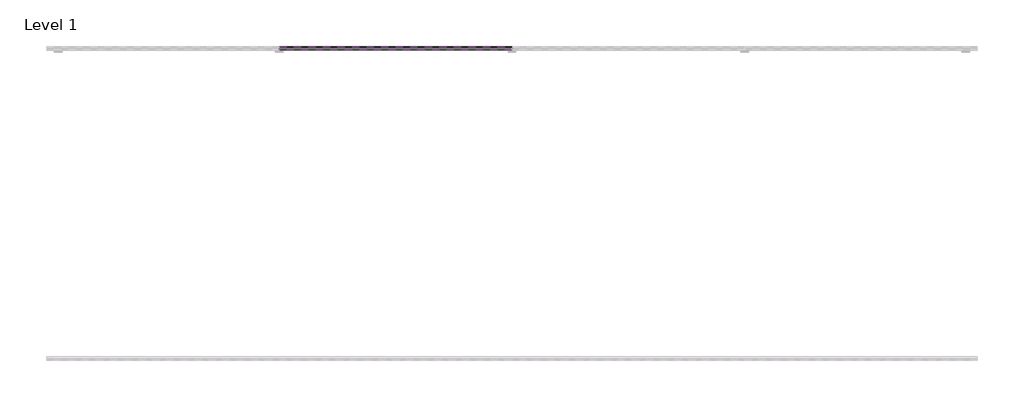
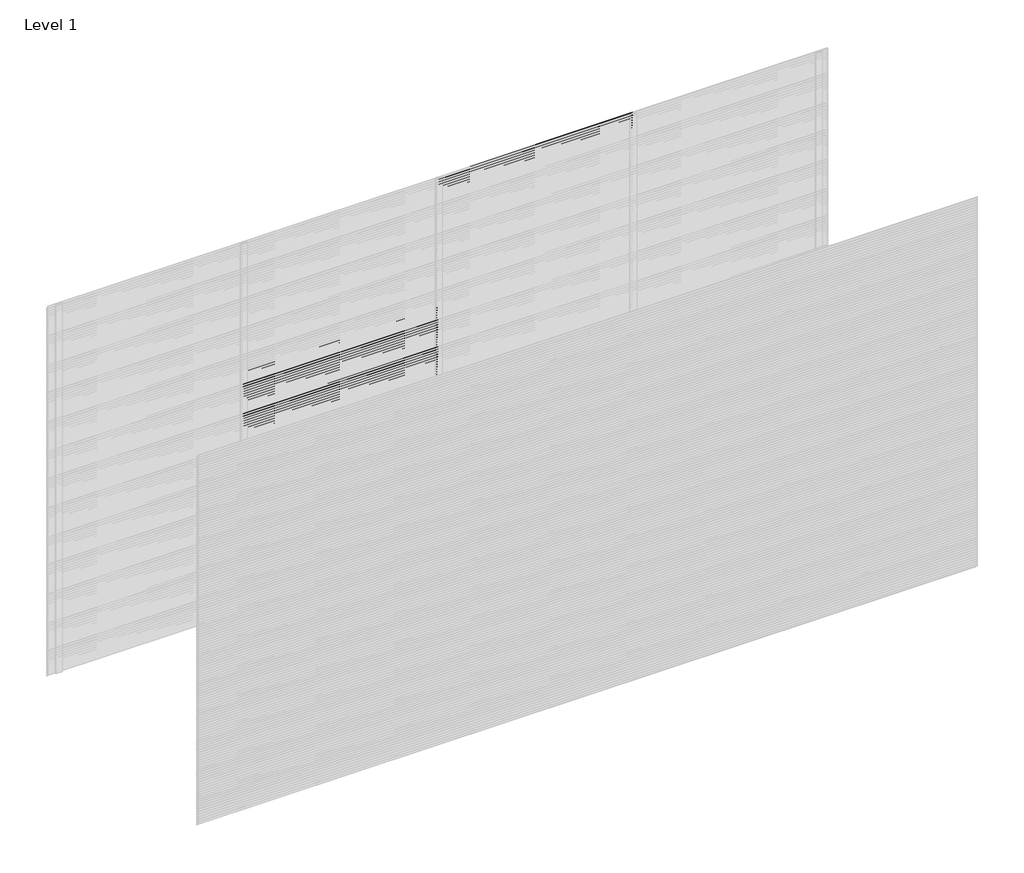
# One storey, part 28 of 31: 104 proxies.
"""IFC4 building model written with IfcOpenShell, lengths in millimetres."""

from ifc_helpers import new_model, si_unit, frame, origin, place, context, project, spatial, polyline, outline, extrude, element, save

model = new_model("IFC4")

# Units and contexts
model_context = context("Model", 3, world=origin())
ifc_project = project(units=[si_unit("LENGTHUNIT", "METRE", prefix="MILLI")], contexts=[model_context])

# Site, building, storey
site = spatial("IfcSite", under=ifc_project)
building = spatial("IfcBuilding", under=site)
storey = spatial("IfcBuildingStorey", under=building, Name="Level 1", Elevation=0.0)

# Proxies
placement = place(None, origin())
element("IfcBuildingElementProxy", 1, Name="Wall Sweeps", at=placement, inside=storey, context=model_context, shape_type="SweptSolid", body=[
    extrude(outline(polyline([(5.0, 1960.0), (5.0, 1948.942893), (24.0, 1933.0), (24.0, 1920.0), (3.0, 1937.6210923), (3.0, 1960.0), (5.0, 1960.0)])), frame((1500.0, 0.0, 0.0), z_axis=(1.0, 0.0, 0.0), x_axis=(0.0, 1.0, 0.0)), (0.0, 0.0, 1.0), 1500.0),
])
element("IfcBuildingElementProxy", 2, Name="Wall Sweeps", at=placement, inside=storey, context=model_context, shape_type="SweptSolid", body=[
    extrude(outline(polyline([(5.0, 1940.0), (5.0, 1928.942893), (24.0, 1913.0), (24.0, 1900.0), (3.0, 1917.6210923), (3.0, 1940.0), (5.0, 1940.0)])), frame((1500.0, 0.0, 0.0), z_axis=(1.0, 0.0, 0.0), x_axis=(0.0, 1.0, 0.0)), (0.0, 0.0, 1.0), 1500.0),
])
element("IfcBuildingElementProxy", 3, Name="Wall Sweeps", at=placement, inside=storey, context=model_context, shape_type="SweptSolid", body=[
    extrude(outline(polyline([(5.0, 1920.0), (5.0, 1908.942893), (24.0, 1893.0), (24.0, 1880.0), (3.0, 1897.6210923), (3.0, 1920.0), (5.0, 1920.0)])), frame((1500.0, 0.0, 0.0), z_axis=(1.0, 0.0, 0.0), x_axis=(0.0, 1.0, 0.0)), (0.0, 0.0, 1.0), 1500.0),
])
element("IfcBuildingElementProxy", 4, Name="Wall Sweeps", at=placement, inside=storey, context=model_context, shape_type="SweptSolid", body=[
    extrude(outline(polyline([(5.0, 1900.0), (5.0, 1888.942893), (24.0, 1873.0), (24.0, 1860.0), (3.0, 1877.6210923), (3.0, 1900.0), (5.0, 1900.0)])), frame((1500.0, 0.0, 0.0), z_axis=(1.0, 0.0, 0.0), x_axis=(0.0, 1.0, 0.0)), (0.0, 0.0, 1.0), 1500.0),
])
element("IfcBuildingElementProxy", 5, Name="Wall Sweeps", at=placement, inside=storey, context=model_context, shape_type="SweptSolid", body=[
    extrude(outline(polyline([(5.0, 1880.0), (5.0, 1868.942893), (24.0, 1853.0), (24.0, 1840.0), (3.0, 1857.6210923), (3.0, 1880.0), (5.0, 1880.0)])), frame((1500.0, 0.0, 0.0), z_axis=(1.0, 0.0, 0.0), x_axis=(0.0, 1.0, 0.0)), (0.0, 0.0, 1.0), 1500.0),
])
element("IfcBuildingElementProxy", 6, Name="Wall Sweeps", at=placement, inside=storey, context=model_context, shape_type="SweptSolid", body=[
    extrude(outline(polyline([(5.0, 1860.0), (5.0, 1848.942893), (24.0, 1833.0), (24.0, 1820.0), (3.0, 1837.6210923), (3.0, 1860.0), (5.0, 1860.0)])), frame((1500.0, 0.0, 0.0), z_axis=(1.0, 0.0, 0.0), x_axis=(0.0, 1.0, 0.0)), (0.0, 0.0, 1.0), 1500.0),
])
element("IfcBuildingElementProxy", 7, Name="Wall Sweeps", at=placement, inside=storey, context=model_context, shape_type="SweptSolid", body=[
    extrude(outline(polyline([(5.0, 1840.0), (5.0, 1828.942893), (24.0, 1813.0), (24.0, 1800.0), (3.0, 1817.6210923), (3.0, 1840.0), (5.0, 1840.0)])), frame((1500.0, 0.0, 0.0), z_axis=(1.0, 0.0, 0.0), x_axis=(0.0, 1.0, 0.0)), (0.0, 0.0, 1.0), 1500.0),
])
element("IfcBuildingElementProxy", 8, Name="Wall Sweeps", at=placement, inside=storey, context=model_context, shape_type="SweptSolid", body=[
    extrude(outline(polyline([(5.0, 1820.0), (5.0, 1808.942893), (24.0, 1793.0), (24.0, 1780.0), (3.0, 1797.6210923), (3.0, 1820.0), (5.0, 1820.0)])), frame((1500.0, 0.0, 0.0), z_axis=(1.0, 0.0, 0.0), x_axis=(0.0, 1.0, 0.0)), (0.0, 0.0, 1.0), 1500.0),
])
element("IfcBuildingElementProxy", 9, Name="Wall Sweeps", at=placement, inside=storey, context=model_context, shape_type="SweptSolid", body=[
    extrude(outline(polyline([(5.0, 1800.0), (5.0, 1788.942893), (24.0, 1773.0), (24.0, 1760.0), (3.0, 1777.6210923), (3.0, 1800.0), (5.0, 1800.0)])), frame((1500.0, 0.0, 0.0), z_axis=(1.0, 0.0, 0.0), x_axis=(0.0, 1.0, 0.0)), (0.0, 0.0, 1.0), 1500.0),
])
element("IfcBuildingElementProxy", 10, Name="Wall Sweeps", at=placement, inside=storey, context=model_context, shape_type="SweptSolid", body=[
    extrude(outline(polyline([(5.0, 1780.0), (5.0, 1768.942893), (24.0, 1753.0), (24.0, 1740.0), (3.0, 1757.6210923), (3.0, 1780.0), (5.0, 1780.0)])), frame((1500.0, 0.0, 0.0), z_axis=(1.0, 0.0, 0.0), x_axis=(0.0, 1.0, 0.0)), (0.0, 0.0, 1.0), 1500.0),
])
element("IfcBuildingElementProxy", 11, Name="Wall Sweeps", at=placement, inside=storey, context=model_context, shape_type="SweptSolid", body=[
    extrude(outline(polyline([(5.0, 1760.0), (5.0, 1748.942893), (24.0, 1733.0), (24.0, 1720.0), (3.0, 1737.6210923), (3.0, 1760.0), (5.0, 1760.0)])), frame((1500.0, 0.0, 0.0), z_axis=(1.0, 0.0, 0.0), x_axis=(0.0, 1.0, 0.0)), (0.0, 0.0, 1.0), 1500.0),
])
element("IfcBuildingElementProxy", 12, Name="Wall Sweeps", at=placement, inside=storey, context=model_context, shape_type="SweptSolid", body=[
    extrude(outline(polyline([(5.0, 1740.0), (5.0, 1728.942893), (24.0, 1713.0), (24.0, 1700.0), (3.0, 1717.6210923), (3.0, 1740.0), (5.0, 1740.0)])), frame((1500.0, 0.0, 0.0), z_axis=(1.0, 0.0, 0.0), x_axis=(0.0, 1.0, 0.0)), (0.0, 0.0, 1.0), 1500.0),
])
element("IfcBuildingElementProxy", 13, Name="Wall Sweeps", at=placement, inside=storey, context=model_context, shape_type="SweptSolid", body=[
    extrude(outline(polyline([(5.0, 1720.0), (5.0, 1708.942893), (24.0, 1693.0), (24.0, 1680.0), (3.0, 1697.6210923), (3.0, 1720.0), (5.0, 1720.0)])), frame((1500.0, 0.0, 0.0), z_axis=(1.0, 0.0, 0.0), x_axis=(0.0, 1.0, 0.0)), (0.0, 0.0, 1.0), 1500.0),
])
element("IfcBuildingElementProxy", 14, Name="Wall Sweeps", at=placement, inside=storey, context=model_context, shape_type="SweptSolid", body=[
    extrude(outline(polyline([(5.0, 1700.0), (5.0, 1688.942893), (24.0, 1673.0), (24.0, 1660.0), (3.0, 1677.6210923), (3.0, 1700.0), (5.0, 1700.0)])), frame((1500.0, 0.0, 0.0), z_axis=(1.0, 0.0, 0.0), x_axis=(0.0, 1.0, 0.0)), (0.0, 0.0, 1.0), 1500.0),
])
element("IfcBuildingElementProxy", 15, Name="Wall Sweeps", at=placement, inside=storey, context=model_context, shape_type="SweptSolid", body=[
    extrude(outline(polyline([(5.0, 1680.0), (5.0, 1668.942893), (24.0, 1653.0), (24.0, 1640.0), (3.0, 1657.6210923), (3.0, 1680.0), (5.0, 1680.0)])), frame((1500.0, 0.0, 0.0), z_axis=(1.0, 0.0, 0.0), x_axis=(0.0, 1.0, 0.0)), (0.0, 0.0, 1.0), 1500.0),
])
element("IfcBuildingElementProxy", 16, Name="Wall Sweeps", at=placement, inside=storey, context=model_context, shape_type="SweptSolid", body=[
    extrude(outline(polyline([(5.0, 1660.0), (5.0, 1648.942893), (24.0, 1633.0), (24.0, 1620.0), (3.0, 1637.6210923), (3.0, 1660.0), (5.0, 1660.0)])), frame((1500.0, 0.0, 0.0), z_axis=(1.0, 0.0, 0.0), x_axis=(0.0, 1.0, 0.0)), (0.0, 0.0, 1.0), 1500.0),
])
element("IfcBuildingElementProxy", 17, Name="Wall Sweeps", at=placement, inside=storey, context=model_context, shape_type="SweptSolid", body=[
    extrude(outline(polyline([(5.0, 1640.0), (5.0, 1628.942893), (24.0, 1613.0), (24.0, 1600.0), (3.0, 1617.6210923), (3.0, 1640.0), (5.0, 1640.0)])), frame((1500.0, 0.0, 0.0), z_axis=(1.0, 0.0, 0.0), x_axis=(0.0, 1.0, 0.0)), (0.0, 0.0, 1.0), 1500.0),
])
element("IfcBuildingElementProxy", 18, Name="Wall Sweeps", at=placement, inside=storey, context=model_context, shape_type="SweptSolid", body=[
    extrude(outline(polyline([(5.0, 1620.0), (5.0, 1608.942893), (24.0, 1593.0), (24.0, 1580.0), (3.0, 1597.6210923), (3.0, 1620.0), (5.0, 1620.0)])), frame((1500.0, 0.0, 0.0), z_axis=(1.0, 0.0, 0.0), x_axis=(0.0, 1.0, 0.0)), (0.0, 0.0, 1.0), 1500.0),
])
element("IfcBuildingElementProxy", 19, Name="Wall Sweeps", at=placement, inside=storey, context=model_context, shape_type="SweptSolid", body=[
    extrude(outline(polyline([(5.0, 1600.0), (5.0, 1588.942893), (24.0, 1573.0), (24.0, 1560.0), (3.0, 1577.6210923), (3.0, 1600.0), (5.0, 1600.0)])), frame((1500.0, 0.0, 0.0), z_axis=(1.0, 0.0, 0.0), x_axis=(0.0, 1.0, 0.0)), (0.0, 0.0, 1.0), 1500.0),
])
element("IfcBuildingElementProxy", 20, Name="Wall Sweeps", at=placement, inside=storey, context=model_context, shape_type="SweptSolid", body=[
    extrude(outline(polyline([(5.0, 1580.0), (5.0, 1568.942893), (24.0, 1553.0), (24.0, 1540.0), (3.0, 1557.6210923), (3.0, 1580.0), (5.0, 1580.0)])), frame((1500.0, 0.0, 0.0), z_axis=(1.0, 0.0, 0.0), x_axis=(0.0, 1.0, 0.0)), (0.0, 0.0, 1.0), 1500.0),
])
element("IfcBuildingElementProxy", 21, Name="Wall Sweeps", at=placement, inside=storey, context=model_context, shape_type="SweptSolid", body=[
    extrude(outline(polyline([(5.0, 1560.0), (5.0, 1548.942893), (24.0, 1533.0), (24.0, 1520.0), (3.0, 1537.6210923), (3.0, 1560.0), (5.0, 1560.0)])), frame((1500.0, 0.0, 0.0), z_axis=(1.0, 0.0, 0.0), x_axis=(0.0, 1.0, 0.0)), (0.0, 0.0, 1.0), 1500.0),
])
element("IfcBuildingElementProxy", 22, Name="Wall Sweeps", at=placement, inside=storey, context=model_context, shape_type="SweptSolid", body=[
    extrude(outline(polyline([(5.0, 1540.0), (5.0, 1528.942893), (24.0, 1513.0), (24.0, 1500.0), (3.0, 1517.6210923), (3.0, 1540.0), (5.0, 1540.0)])), frame((1500.0, 0.0, 0.0), z_axis=(1.0, 0.0, 0.0), x_axis=(0.0, 1.0, 0.0)), (0.0, 0.0, 1.0), 1500.0),
])
element("IfcBuildingElementProxy", 23, Name="Wall Sweeps", at=placement, inside=storey, context=model_context, shape_type="SweptSolid", body=[
    extrude(outline(polyline([(5.0, 1520.0), (5.0, 1508.942893), (24.0, 1493.0), (24.0, 1480.0), (3.0, 1497.6210923), (3.0, 1520.0), (5.0, 1520.0)])), frame((1500.0, 0.0, 0.0), z_axis=(1.0, 0.0, 0.0), x_axis=(0.0, 1.0, 0.0)), (0.0, 0.0, 1.0), 1500.0),
])
element("IfcBuildingElementProxy", 24, Name="Wall Sweeps", at=placement, inside=storey, context=model_context, shape_type="SweptSolid", body=[
    extrude(outline(polyline([(5.0, 1500.0), (5.0, 1488.942893), (24.0, 1473.0), (24.0, 1460.0), (3.0, 1477.6210923), (3.0, 1500.0), (5.0, 1500.0)])), frame((1500.0, 0.0, 0.0), z_axis=(1.0, 0.0, 0.0), x_axis=(0.0, 1.0, 0.0)), (0.0, 0.0, 1.0), 1500.0),
])
element("IfcBuildingElementProxy", 25, Name="Wall Sweeps", at=placement, inside=storey, context=model_context, shape_type="SweptSolid", body=[
    extrude(outline(polyline([(5.0, 1480.0), (5.0, 1468.942893), (24.0, 1453.0), (24.0, 1440.0), (3.0, 1457.6210923), (3.0, 1480.0), (5.0, 1480.0)])), frame((1500.0, 0.0, 0.0), z_axis=(1.0, 0.0, 0.0), x_axis=(0.0, 1.0, 0.0)), (0.0, 0.0, 1.0), 1500.0),
])
element("IfcBuildingElementProxy", 26, Name="Wall Sweeps", at=placement, inside=storey, context=model_context, shape_type="SweptSolid", body=[
    extrude(outline(polyline([(5.0, 1460.0), (5.0, 1448.942893), (24.0, 1433.0), (24.0, 1420.0), (3.0, 1437.6210923), (3.0, 1460.0), (5.0, 1460.0)])), frame((1500.0, 0.0, 0.0), z_axis=(1.0, 0.0, 0.0), x_axis=(0.0, 1.0, 0.0)), (0.0, 0.0, 1.0), 1500.0),
])
element("IfcBuildingElementProxy", 27, Name="Wall Sweeps", at=placement, inside=storey, context=model_context, shape_type="SweptSolid", body=[
    extrude(outline(polyline([(5.0, 1440.0), (5.0, 1428.942893), (24.0, 1413.0), (24.0, 1400.0), (3.0, 1417.6210923), (3.0, 1440.0), (5.0, 1440.0)])), frame((1500.0, 0.0, 0.0), z_axis=(1.0, 0.0, 0.0), x_axis=(0.0, 1.0, 0.0)), (0.0, 0.0, 1.0), 1500.0),
])
element("IfcBuildingElementProxy", 28, Name="Wall Sweeps", at=placement, inside=storey, context=model_context, shape_type="SweptSolid", body=[
    extrude(outline(polyline([(5.0, 1420.0), (5.0, 1408.942893), (24.0, 1393.0), (24.0, 1380.0), (3.0, 1397.6210923), (3.0, 1420.0), (5.0, 1420.0)])), frame((1500.0, 0.0, 0.0), z_axis=(1.0, 0.0, 0.0), x_axis=(0.0, 1.0, 0.0)), (0.0, 0.0, 1.0), 1500.0),
])
element("IfcBuildingElementProxy", 29, Name="Wall Sweeps", at=placement, inside=storey, context=model_context, shape_type="SweptSolid", body=[
    extrude(outline(polyline([(5.0, 1400.0), (5.0, 1388.942893), (24.0, 1373.0), (24.0, 1360.0), (3.0, 1377.6210923), (3.0, 1400.0), (5.0, 1400.0)])), frame((1500.0, 0.0, 0.0), z_axis=(1.0, 0.0, 0.0), x_axis=(0.0, 1.0, 0.0)), (0.0, 0.0, 1.0), 1500.0),
])
element("IfcBuildingElementProxy", 30, Name="Wall Sweeps", at=placement, inside=storey, context=model_context, shape_type="SweptSolid", body=[
    extrude(outline(polyline([(5.0, 1380.0), (5.0, 1368.942893), (24.0, 1353.0), (24.0, 1340.0), (3.0, 1357.6210923), (3.0, 1380.0), (5.0, 1380.0)])), frame((1500.0, 0.0, 0.0), z_axis=(1.0, 0.0, 0.0), x_axis=(0.0, 1.0, 0.0)), (0.0, 0.0, 1.0), 1500.0),
])
element("IfcBuildingElementProxy", 31, Name="Wall Sweeps", at=placement, inside=storey, context=model_context, shape_type="SweptSolid", body=[
    extrude(outline(polyline([(5.0, 1360.0), (5.0, 1348.942893), (24.0, 1333.0), (24.0, 1320.0), (3.0, 1337.6210923), (3.0, 1360.0), (5.0, 1360.0)])), frame((1500.0, 0.0, 0.0), z_axis=(1.0, 0.0, 0.0), x_axis=(0.0, 1.0, 0.0)), (0.0, 0.0, 1.0), 1500.0),
])
element("IfcBuildingElementProxy", 32, Name="Wall Sweeps", at=placement, inside=storey, context=model_context, shape_type="SweptSolid", body=[
    extrude(outline(polyline([(5.0, 1340.0), (5.0, 1328.942893), (24.0, 1313.0), (24.0, 1300.0), (3.0, 1317.6210923), (3.0, 1340.0), (5.0, 1340.0)])), frame((1500.0, 0.0, 0.0), z_axis=(1.0, 0.0, 0.0), x_axis=(0.0, 1.0, 0.0)), (0.0, 0.0, 1.0), 1500.0),
])
element("IfcBuildingElementProxy", 33, Name="Wall Sweeps", at=placement, inside=storey, context=model_context, shape_type="SweptSolid", body=[
    extrude(outline(polyline([(5.0, 1320.0), (5.0, 1308.942893), (24.0, 1293.0), (24.0, 1280.0), (3.0, 1297.6210923), (3.0, 1320.0), (5.0, 1320.0)])), frame((1500.0, 0.0, 0.0), z_axis=(1.0, 0.0, 0.0), x_axis=(0.0, 1.0, 0.0)), (0.0, 0.0, 1.0), 1500.0),
])
element("IfcBuildingElementProxy", 34, Name="Wall Sweeps", at=placement, inside=storey, context=model_context, shape_type="SweptSolid", body=[
    extrude(outline(polyline([(5.0, 1300.0), (5.0, 1288.942893), (24.0, 1273.0), (24.0, 1260.0), (3.0, 1277.6210923), (3.0, 1300.0), (5.0, 1300.0)])), frame((1500.0, 0.0, 0.0), z_axis=(1.0, 0.0, 0.0), x_axis=(0.0, 1.0, 0.0)), (0.0, 0.0, 1.0), 1500.0),
])
element("IfcBuildingElementProxy", 35, Name="Wall Sweeps", at=placement, inside=storey, context=model_context, shape_type="SweptSolid", body=[
    extrude(outline(polyline([(5.0, 1280.0), (5.0, 1268.942893), (24.0, 1253.0), (24.0, 1240.0), (3.0, 1257.6210923), (3.0, 1280.0), (5.0, 1280.0)])), frame((1500.0, 0.0, 0.0), z_axis=(1.0, 0.0, 0.0), x_axis=(0.0, 1.0, 0.0)), (0.0, 0.0, 1.0), 1500.0),
])
element("IfcBuildingElementProxy", 36, Name="Wall Sweeps", at=placement, inside=storey, context=model_context, shape_type="SweptSolid", body=[
    extrude(outline(polyline([(5.0, 1260.0), (5.0, 1248.942893), (24.0, 1233.0), (24.0, 1220.0), (3.0, 1237.6210923), (3.0, 1260.0), (5.0, 1260.0)])), frame((1500.0, 0.0, 0.0), z_axis=(1.0, 0.0, 0.0), x_axis=(0.0, 1.0, 0.0)), (0.0, 0.0, 1.0), 1500.0),
])
element("IfcBuildingElementProxy", 37, Name="Wall Sweeps", at=placement, inside=storey, context=model_context, shape_type="SweptSolid", body=[
    extrude(outline(polyline([(5.0, 1240.0), (5.0, 1228.942893), (24.0, 1213.0), (24.0, 1200.0), (3.0, 1217.6210923), (3.0, 1240.0), (5.0, 1240.0)])), frame((1500.0, 0.0, 0.0), z_axis=(1.0, 0.0, 0.0), x_axis=(0.0, 1.0, 0.0)), (0.0, 0.0, 1.0), 1500.0),
])
element("IfcBuildingElementProxy", 38, Name="Wall Sweeps", at=placement, inside=storey, context=model_context, shape_type="SweptSolid", body=[
    extrude(outline(polyline([(5.0, 1220.0), (5.0, 1208.942893), (24.0, 1193.0), (24.0, 1180.0), (3.0, 1197.6210923), (3.0, 1220.0), (5.0, 1220.0)])), frame((1500.0, 0.0, 0.0), z_axis=(1.0, 0.0, 0.0), x_axis=(0.0, 1.0, 0.0)), (0.0, 0.0, 1.0), 1500.0),
])
element("IfcBuildingElementProxy", 39, Name="Wall Sweeps", at=placement, inside=storey, context=model_context, shape_type="SweptSolid", body=[
    extrude(outline(polyline([(5.0, 1200.0), (5.0, 1188.942893), (24.0, 1173.0), (24.0, 1160.0), (3.0, 1177.6210923), (3.0, 1200.0), (5.0, 1200.0)])), frame((1500.0, 0.0, 0.0), z_axis=(1.0, 0.0, 0.0), x_axis=(0.0, 1.0, 0.0)), (0.0, 0.0, 1.0), 1500.0),
])
element("IfcBuildingElementProxy", 40, Name="Wall Sweeps", at=placement, inside=storey, context=model_context, shape_type="SweptSolid", body=[
    extrude(outline(polyline([(5.0, 1180.0), (5.0, 1168.942893), (24.0, 1153.0), (24.0, 1140.0), (3.0, 1157.6210923), (3.0, 1180.0), (5.0, 1180.0)])), frame((1500.0, 0.0, 0.0), z_axis=(1.0, 0.0, 0.0), x_axis=(0.0, 1.0, 0.0)), (0.0, 0.0, 1.0), 1500.0),
])
element("IfcBuildingElementProxy", 41, Name="Wall Sweeps", at=placement, inside=storey, context=model_context, shape_type="SweptSolid", body=[
    extrude(outline(polyline([(5.0, 1160.0), (5.0, 1148.942893), (24.0, 1133.0), (24.0, 1120.0), (3.0, 1137.6210923), (3.0, 1160.0), (5.0, 1160.0)])), frame((1500.0, 0.0, 0.0), z_axis=(1.0, 0.0, 0.0), x_axis=(0.0, 1.0, 0.0)), (0.0, 0.0, 1.0), 1500.0),
])
element("IfcBuildingElementProxy", 42, Name="Wall Sweeps", at=placement, inside=storey, context=model_context, shape_type="SweptSolid", body=[
    extrude(outline(polyline([(5.0, 1140.0), (5.0, 1128.942893), (24.0, 1113.0), (24.0, 1100.0), (3.0, 1117.6210923), (3.0, 1140.0), (5.0, 1140.0)])), frame((1500.0, 0.0, 0.0), z_axis=(1.0, 0.0, 0.0), x_axis=(0.0, 1.0, 0.0)), (0.0, 0.0, 1.0), 1500.0),
])
element("IfcBuildingElementProxy", 43, Name="Wall Sweeps", at=placement, inside=storey, context=model_context, shape_type="SweptSolid", body=[
    extrude(outline(polyline([(5.0, 1120.0), (5.0, 1108.942893), (24.0, 1093.0), (24.0, 1080.0), (3.0, 1097.6210923), (3.0, 1120.0), (5.0, 1120.0)])), frame((1500.0, 0.0, 0.0), z_axis=(1.0, 0.0, 0.0), x_axis=(0.0, 1.0, 0.0)), (0.0, 0.0, 1.0), 1500.0),
])
element("IfcBuildingElementProxy", 44, Name="Wall Sweeps", at=placement, inside=storey, context=model_context, shape_type="SweptSolid", body=[
    extrude(outline(polyline([(5.0, 1100.0), (5.0, 1088.942893), (24.0, 1073.0), (24.0, 1060.0), (3.0, 1077.6210923), (3.0, 1100.0), (5.0, 1100.0)])), frame((1500.0, 0.0, 0.0), z_axis=(1.0, 0.0, 0.0), x_axis=(0.0, 1.0, 0.0)), (0.0, 0.0, 1.0), 1500.0),
])
element("IfcBuildingElementProxy", 45, Name="Wall Sweeps", at=placement, inside=storey, context=model_context, shape_type="SweptSolid", body=[
    extrude(outline(polyline([(5.0, 1080.0), (5.0, 1068.942893), (24.0, 1053.0), (24.0, 1040.0), (3.0, 1057.6210923), (3.0, 1080.0), (5.0, 1080.0)])), frame((1500.0, 0.0, 0.0), z_axis=(1.0, 0.0, 0.0), x_axis=(0.0, 1.0, 0.0)), (0.0, 0.0, 1.0), 1500.0),
])
element("IfcBuildingElementProxy", 46, Name="Wall Sweeps", at=placement, inside=storey, context=model_context, shape_type="SweptSolid", body=[
    extrude(outline(polyline([(5.0, 1060.0), (5.0, 1048.942893), (24.0, 1033.0), (24.0, 1020.0), (3.0, 1037.6210923), (3.0, 1060.0), (5.0, 1060.0)])), frame((1500.0, 0.0, 0.0), z_axis=(1.0, 0.0, 0.0), x_axis=(0.0, 1.0, 0.0)), (0.0, 0.0, 1.0), 1500.0),
])
element("IfcBuildingElementProxy", 47, Name="Wall Sweeps", at=placement, inside=storey, context=model_context, shape_type="SweptSolid", body=[
    extrude(outline(polyline([(5.0, 1040.0), (5.0, 1028.942893), (24.0, 1013.0), (24.0, 1000.0), (3.0, 1017.6210923), (3.0, 1040.0), (5.0, 1040.0)])), frame((1500.0, 0.0, 0.0), z_axis=(1.0, 0.0, 0.0), x_axis=(0.0, 1.0, 0.0)), (0.0, 0.0, 1.0), 1500.0),
])
element("IfcBuildingElementProxy", 48, Name="Wall Sweeps", at=placement, inside=storey, context=model_context, shape_type="SweptSolid", body=[
    extrude(outline(polyline([(5.0, 1020.0), (5.0, 1008.942893), (24.0, 993.0), (24.0, 980.0), (3.0, 997.6210923), (3.0, 1020.0), (5.0, 1020.0)])), frame((1500.0, 0.0, 0.0), z_axis=(1.0, 0.0, 0.0), x_axis=(0.0, 1.0, 0.0)), (0.0, 0.0, 1.0), 1500.0),
])
element("IfcBuildingElementProxy", 49, Name="Wall Sweeps", at=placement, inside=storey, context=model_context, shape_type="SweptSolid", body=[
    extrude(outline(polyline([(5.0, 1000.0), (5.0, 988.942893), (24.0, 973.0), (24.0, 960.0), (3.0, 977.6210923), (3.0, 1000.0), (5.0, 1000.0)])), frame((1500.0, 0.0, 0.0), z_axis=(1.0, 0.0, 0.0), x_axis=(0.0, 1.0, 0.0)), (0.0, 0.0, 1.0), 1500.0),
])
element("IfcBuildingElementProxy", 50, Name="Wall Sweeps", at=placement, inside=storey, context=model_context, shape_type="SweptSolid", body=[
    extrude(outline(polyline([(5.0, 980.0), (5.0, 968.942893), (24.0, 953.0), (24.0, 940.0), (3.0, 957.6210923), (3.0, 980.0), (5.0, 980.0)])), frame((1500.0, 0.0, 0.0), z_axis=(1.0, 0.0, 0.0), x_axis=(0.0, 1.0, 0.0)), (0.0, 0.0, 1.0), 1500.0),
])
element("IfcBuildingElementProxy", 51, Name="Wall Sweeps", at=placement, inside=storey, context=model_context, shape_type="SweptSolid", body=[
    extrude(outline(polyline([(5.0, 960.0), (5.0, 948.942893), (24.0, 933.0), (24.0, 920.0), (3.0, 937.6210923), (3.0, 960.0), (5.0, 960.0)])), frame((1500.0, 0.0, 0.0), z_axis=(1.0, 0.0, 0.0), x_axis=(0.0, 1.0, 0.0)), (0.0, 0.0, 1.0), 1500.0),
])
element("IfcBuildingElementProxy", 52, Name="Wall Sweeps", at=placement, inside=storey, context=model_context, shape_type="SweptSolid", body=[
    extrude(outline(polyline([(5.0, 940.0), (5.0, 928.942893), (24.0, 913.0), (24.0, 900.0), (3.0, 917.6210923), (3.0, 940.0), (5.0, 940.0)])), frame((1500.0, 0.0, 0.0), z_axis=(1.0, 0.0, 0.0), x_axis=(0.0, 1.0, 0.0)), (0.0, 0.0, 1.0), 1500.0),
])
element("IfcBuildingElementProxy", 53, Name="Wall Sweeps", at=placement, inside=storey, context=model_context, shape_type="SweptSolid", body=[
    extrude(outline(polyline([(5.0, 920.0), (5.0, 908.942893), (24.0, 893.0), (24.0, 880.0), (3.0, 897.6210923), (3.0, 920.0), (5.0, 920.0)])), frame((1500.0, 0.0, 0.0), z_axis=(1.0, 0.0, 0.0), x_axis=(0.0, 1.0, 0.0)), (0.0, 0.0, 1.0), 1500.0),
])
element("IfcBuildingElementProxy", 54, Name="Wall Sweeps", at=placement, inside=storey, context=model_context, shape_type="SweptSolid", body=[
    extrude(outline(polyline([(5.0, 900.0), (5.0, 888.942893), (24.0, 873.0), (24.0, 860.0), (3.0, 877.6210923), (3.0, 900.0), (5.0, 900.0)])), frame((1500.0, 0.0, 0.0), z_axis=(1.0, 0.0, 0.0), x_axis=(0.0, 1.0, 0.0)), (0.0, 0.0, 1.0), 1500.0),
])
element("IfcBuildingElementProxy", 55, Name="Wall Sweeps", at=placement, inside=storey, context=model_context, shape_type="SweptSolid", body=[
    extrude(outline(polyline([(5.0, 880.0), (5.0, 868.942893), (24.0, 853.0), (24.0, 840.0), (3.0, 857.6210923), (3.0, 880.0), (5.0, 880.0)])), frame((1500.0, 0.0, 0.0), z_axis=(1.0, 0.0, 0.0), x_axis=(0.0, 1.0, 0.0)), (0.0, 0.0, 1.0), 1500.0),
])
element("IfcBuildingElementProxy", 56, Name="Wall Sweeps", at=placement, inside=storey, context=model_context, shape_type="SweptSolid", body=[
    extrude(outline(polyline([(5.0, 860.0), (5.0, 848.942893), (24.0, 833.0), (24.0, 820.0), (3.0, 837.6210923), (3.0, 860.0), (5.0, 860.0)])), frame((1500.0, 0.0, 0.0), z_axis=(1.0, 0.0, 0.0), x_axis=(0.0, 1.0, 0.0)), (0.0, 0.0, 1.0), 1500.0),
])
element("IfcBuildingElementProxy", 57, Name="Wall Sweeps", at=placement, inside=storey, context=model_context, shape_type="SweptSolid", body=[
    extrude(outline(polyline([(5.0, 840.0), (5.0, 828.942893), (24.0, 813.0), (24.0, 800.0), (3.0, 817.6210923), (3.0, 840.0), (5.0, 840.0)])), frame((1500.0, 0.0, 0.0), z_axis=(1.0, 0.0, 0.0), x_axis=(0.0, 1.0, 0.0)), (0.0, 0.0, 1.0), 1500.0),
])
element("IfcBuildingElementProxy", 58, Name="Wall Sweeps", at=placement, inside=storey, context=model_context, shape_type="SweptSolid", body=[
    extrude(outline(polyline([(5.0, 820.0), (5.0, 808.942893), (24.0, 793.0), (24.0, 780.0), (3.0, 797.6210923), (3.0, 820.0), (5.0, 820.0)])), frame((1500.0, 0.0, 0.0), z_axis=(1.0, 0.0, 0.0), x_axis=(0.0, 1.0, 0.0)), (0.0, 0.0, 1.0), 1500.0),
])
element("IfcBuildingElementProxy", 59, Name="Wall Sweeps", at=placement, inside=storey, context=model_context, shape_type="SweptSolid", body=[
    extrude(outline(polyline([(5.0, 800.0), (5.0, 788.942893), (24.0, 773.0), (24.0, 760.0), (3.0, 777.6210923), (3.0, 800.0), (5.0, 800.0)])), frame((1500.0, 0.0, 0.0), z_axis=(1.0, 0.0, 0.0), x_axis=(0.0, 1.0, 0.0)), (0.0, 0.0, 1.0), 1500.0),
])
element("IfcBuildingElementProxy", 60, Name="Wall Sweeps", at=placement, inside=storey, context=model_context, shape_type="SweptSolid", body=[
    extrude(outline(polyline([(5.0, 780.0), (5.0, 768.942893), (24.0, 753.0), (24.0, 740.0), (3.0, 757.6210923), (3.0, 780.0), (5.0, 780.0)])), frame((1500.0, 0.0, 0.0), z_axis=(1.0, 0.0, 0.0), x_axis=(0.0, 1.0, 0.0)), (0.0, 0.0, 1.0), 1500.0),
])
element("IfcBuildingElementProxy", 61, Name="Wall Sweeps", at=placement, inside=storey, context=model_context, shape_type="SweptSolid", body=[
    extrude(outline(polyline([(5.0, 760.0), (5.0, 748.942893), (24.0, 733.0), (24.0, 720.0), (3.0, 737.6210923), (3.0, 760.0), (5.0, 760.0)])), frame((1500.0, 0.0, 0.0), z_axis=(1.0, 0.0, 0.0), x_axis=(0.0, 1.0, 0.0)), (0.0, 0.0, 1.0), 1500.0),
])
element("IfcBuildingElementProxy", 62, Name="Wall Sweeps", at=placement, inside=storey, context=model_context, shape_type="SweptSolid", body=[
    extrude(outline(polyline([(5.0, 740.0), (5.0, 728.942893), (24.0, 713.0), (24.0, 700.0), (3.0, 717.6210923), (3.0, 740.0), (5.0, 740.0)])), frame((1500.0, 0.0, 0.0), z_axis=(1.0, 0.0, 0.0), x_axis=(0.0, 1.0, 0.0)), (0.0, 0.0, 1.0), 1500.0),
])
element("IfcBuildingElementProxy", 63, Name="Wall Sweeps", at=placement, inside=storey, context=model_context, shape_type="SweptSolid", body=[
    extrude(outline(polyline([(5.0, 720.0), (5.0, 708.942893), (24.0, 693.0), (24.0, 680.0), (3.0, 697.6210923), (3.0, 720.0), (5.0, 720.0)])), frame((1500.0, 0.0, 0.0), z_axis=(1.0, 0.0, 0.0), x_axis=(0.0, 1.0, 0.0)), (0.0, 0.0, 1.0), 1500.0),
])
element("IfcBuildingElementProxy", 64, Name="Wall Sweeps", at=placement, inside=storey, context=model_context, shape_type="SweptSolid", body=[
    extrude(outline(polyline([(5.0, 700.0), (5.0, 688.942893), (24.0, 673.0), (24.0, 660.0), (3.0, 677.6210923), (3.0, 700.0), (5.0, 700.0)])), frame((1500.0, 0.0, 0.0), z_axis=(1.0, 0.0, 0.0), x_axis=(0.0, 1.0, 0.0)), (0.0, 0.0, 1.0), 1500.0),
])
element("IfcBuildingElementProxy", 65, Name="Wall Sweeps", at=placement, inside=storey, context=model_context, shape_type="SweptSolid", body=[
    extrude(outline(polyline([(5.0, 680.0), (5.0, 668.942893), (24.0, 653.0), (24.0, 640.0), (3.0, 657.6210923), (3.0, 680.0), (5.0, 680.0)])), frame((1500.0, 0.0, 0.0), z_axis=(1.0, 0.0, 0.0), x_axis=(0.0, 1.0, 0.0)), (0.0, 0.0, 1.0), 1500.0),
])
element("IfcBuildingElementProxy", 66, Name="Wall Sweeps", at=placement, inside=storey, context=model_context, shape_type="SweptSolid", body=[
    extrude(outline(polyline([(5.0, 660.0), (5.0, 648.942893), (24.0, 633.0), (24.0, 620.0), (3.0, 637.6210923), (3.0, 660.0), (5.0, 660.0)])), frame((1500.0, 0.0, 0.0), z_axis=(1.0, 0.0, 0.0), x_axis=(0.0, 1.0, 0.0)), (0.0, 0.0, 1.0), 1500.0),
])
element("IfcBuildingElementProxy", 67, Name="Wall Sweeps", at=placement, inside=storey, context=model_context, shape_type="SweptSolid", body=[
    extrude(outline(polyline([(5.0, 640.0), (5.0, 628.942893), (24.0, 613.0), (24.0, 600.0), (3.0, 617.6210923), (3.0, 640.0), (5.0, 640.0)])), frame((1500.0, 0.0, 0.0), z_axis=(1.0, 0.0, 0.0), x_axis=(0.0, 1.0, 0.0)), (0.0, 0.0, 1.0), 1500.0),
])
element("IfcBuildingElementProxy", 68, Name="Wall Sweeps", at=placement, inside=storey, context=model_context, shape_type="SweptSolid", body=[
    extrude(outline(polyline([(5.0, 620.0), (5.0, 608.942893), (24.0, 593.0), (24.0, 580.0), (3.0, 597.6210923), (3.0, 620.0), (5.0, 620.0)])), frame((1500.0, 0.0, 0.0), z_axis=(1.0, 0.0, 0.0), x_axis=(0.0, 1.0, 0.0)), (0.0, 0.0, 1.0), 1500.0),
])
element("IfcBuildingElementProxy", 69, Name="Wall Sweeps", at=placement, inside=storey, context=model_context, shape_type="SweptSolid", body=[
    extrude(outline(polyline([(5.0, 600.0), (5.0, 588.942893), (24.0, 573.0), (24.0, 560.0), (3.0, 577.6210923), (3.0, 600.0), (5.0, 600.0)])), frame((1500.0, 0.0, 0.0), z_axis=(1.0, 0.0, 0.0), x_axis=(0.0, 1.0, 0.0)), (0.0, 0.0, 1.0), 1500.0),
])
element("IfcBuildingElementProxy", 70, Name="Wall Sweeps", at=placement, inside=storey, context=model_context, shape_type="SweptSolid", body=[
    extrude(outline(polyline([(5.0, 580.0), (5.0, 568.942893), (24.0, 553.0), (24.0, 540.0), (3.0, 557.6210923), (3.0, 580.0), (5.0, 580.0)])), frame((1500.0, 0.0, 0.0), z_axis=(1.0, 0.0, 0.0), x_axis=(0.0, 1.0, 0.0)), (0.0, 0.0, 1.0), 1500.0),
])
element("IfcBuildingElementProxy", 71, Name="Wall Sweeps", at=placement, inside=storey, context=model_context, shape_type="SweptSolid", body=[
    extrude(outline(polyline([(5.0, 560.0), (5.0, 548.942893), (24.0, 533.0), (24.0, 520.0), (3.0, 537.6210923), (3.0, 560.0), (5.0, 560.0)])), frame((1500.0, 0.0, 0.0), z_axis=(1.0, 0.0, 0.0), x_axis=(0.0, 1.0, 0.0)), (0.0, 0.0, 1.0), 1500.0),
])
element("IfcBuildingElementProxy", 72, Name="Wall Sweeps", at=placement, inside=storey, context=model_context, shape_type="SweptSolid", body=[
    extrude(outline(polyline([(5.0, 540.0), (5.0, 528.942893), (24.0, 513.0), (24.0, 500.0), (3.0, 517.6210923), (3.0, 540.0), (5.0, 540.0)])), frame((1500.0, 0.0, 0.0), z_axis=(1.0, 0.0, 0.0), x_axis=(0.0, 1.0, 0.0)), (0.0, 0.0, 1.0), 1500.0),
])
element("IfcBuildingElementProxy", 73, Name="Wall Sweeps", at=placement, inside=storey, context=model_context, shape_type="SweptSolid", body=[
    extrude(outline(polyline([(5.0, 520.0), (5.0, 508.942893), (24.0, 493.0), (24.0, 480.0), (3.0, 497.6210923), (3.0, 520.0), (5.0, 520.0)])), frame((1500.0, 0.0, 0.0), z_axis=(1.0, 0.0, 0.0), x_axis=(0.0, 1.0, 0.0)), (0.0, 0.0, 1.0), 1500.0),
])
element("IfcBuildingElementProxy", 74, Name="Wall Sweeps", at=placement, inside=storey, context=model_context, shape_type="SweptSolid", body=[
    extrude(outline(polyline([(5.0, 500.0), (5.0, 488.942893), (24.0, 473.0), (24.0, 460.0), (3.0, 477.6210923), (3.0, 500.0), (5.0, 500.0)])), frame((1500.0, 0.0, 0.0), z_axis=(1.0, 0.0, 0.0), x_axis=(0.0, 1.0, 0.0)), (0.0, 0.0, 1.0), 1500.0),
])
element("IfcBuildingElementProxy", 75, Name="Wall Sweeps", at=placement, inside=storey, context=model_context, shape_type="SweptSolid", body=[
    extrude(outline(polyline([(5.0, 480.0), (5.0, 468.942893), (24.0, 453.0), (24.0, 440.0), (3.0, 457.6210923), (3.0, 480.0), (5.0, 480.0)])), frame((1500.0, 0.0, 0.0), z_axis=(1.0, 0.0, 0.0), x_axis=(0.0, 1.0, 0.0)), (0.0, 0.0, 1.0), 1500.0),
])
element("IfcBuildingElementProxy", 76, Name="Wall Sweeps", at=placement, inside=storey, context=model_context, shape_type="SweptSolid", body=[
    extrude(outline(polyline([(5.0, 460.0), (5.0, 448.942893), (24.0, 433.0), (24.0, 420.0), (3.0, 437.6210923), (3.0, 460.0), (5.0, 460.0)])), frame((1500.0, 0.0, 0.0), z_axis=(1.0, 0.0, 0.0), x_axis=(0.0, 1.0, 0.0)), (0.0, 0.0, 1.0), 1500.0),
])
element("IfcBuildingElementProxy", 77, Name="Wall Sweeps", at=placement, inside=storey, context=model_context, shape_type="SweptSolid", body=[
    extrude(outline(polyline([(5.0, 440.0), (5.0, 428.942893), (24.0, 413.0), (24.0, 400.0), (3.0, 417.6210923), (3.0, 440.0), (5.0, 440.0)])), frame((1500.0, 0.0, 0.0), z_axis=(1.0, 0.0, 0.0), x_axis=(0.0, 1.0, 0.0)), (0.0, 0.0, 1.0), 1500.0),
])
element("IfcBuildingElementProxy", 78, Name="Wall Sweeps", at=placement, inside=storey, context=model_context, shape_type="SweptSolid", body=[
    extrude(outline(polyline([(5.0, 420.0), (5.0, 408.942893), (24.0, 393.0), (24.0, 380.0), (3.0, 397.6210923), (3.0, 420.0), (5.0, 420.0)])), frame((1500.0, 0.0, 0.0), z_axis=(1.0, 0.0, 0.0), x_axis=(0.0, 1.0, 0.0)), (0.0, 0.0, 1.0), 1500.0),
])
element("IfcBuildingElementProxy", 79, Name="Wall Sweeps", at=placement, inside=storey, context=model_context, shape_type="SweptSolid", body=[
    extrude(outline(polyline([(5.0, 400.0), (5.0, 388.942893), (24.0, 373.0), (24.0, 360.0), (3.0, 377.6210923), (3.0, 400.0), (5.0, 400.0)])), frame((1500.0, 0.0, 0.0), z_axis=(1.0, 0.0, 0.0), x_axis=(0.0, 1.0, 0.0)), (0.0, 0.0, 1.0), 1500.0),
])
element("IfcBuildingElementProxy", 80, Name="Wall Sweeps", at=placement, inside=storey, context=model_context, shape_type="SweptSolid", body=[
    extrude(outline(polyline([(5.0, 380.0), (5.0, 368.942893), (24.0, 353.0), (24.0, 340.0), (3.0, 357.6210923), (3.0, 380.0), (5.0, 380.0)])), frame((1500.0, 0.0, 0.0), z_axis=(1.0, 0.0, 0.0), x_axis=(0.0, 1.0, 0.0)), (0.0, 0.0, 1.0), 1500.0),
])
element("IfcBuildingElementProxy", 81, Name="Wall Sweeps", at=placement, inside=storey, context=model_context, shape_type="SweptSolid", body=[
    extrude(outline(polyline([(5.0, 360.0), (5.0, 348.942893), (24.0, 333.0), (24.0, 320.0), (3.0, 337.6210923), (3.0, 360.0), (5.0, 360.0)])), frame((1500.0, 0.0, 0.0), z_axis=(1.0, 0.0, 0.0), x_axis=(0.0, 1.0, 0.0)), (0.0, 0.0, 1.0), 1500.0),
])
element("IfcBuildingElementProxy", 82, Name="Wall Sweeps", at=placement, inside=storey, context=model_context, shape_type="SweptSolid", body=[
    extrude(outline(polyline([(5.0, 340.0), (5.0, 328.942893), (24.0, 313.0), (24.0, 300.0), (3.0, 317.6210923), (3.0, 340.0), (5.0, 340.0)])), frame((1500.0, 0.0, 0.0), z_axis=(1.0, 0.0, 0.0), x_axis=(0.0, 1.0, 0.0)), (0.0, 0.0, 1.0), 1500.0),
])
element("IfcBuildingElementProxy", 83, Name="Wall Sweeps", at=placement, inside=storey, context=model_context, shape_type="SweptSolid", body=[
    extrude(outline(polyline([(5.0, 320.0), (5.0, 308.942893), (24.0, 293.0), (24.0, 280.0), (3.0, 297.6210923), (3.0, 320.0), (5.0, 320.0)])), frame((1500.0, 0.0, 0.0), z_axis=(1.0, 0.0, 0.0), x_axis=(0.0, 1.0, 0.0)), (0.0, 0.0, 1.0), 1500.0),
])
element("IfcBuildingElementProxy", 84, Name="Wall Sweeps", at=placement, inside=storey, context=model_context, shape_type="SweptSolid", body=[
    extrude(outline(polyline([(5.0, 300.0), (5.0, 288.942893), (24.0, 273.0), (24.0, 260.0), (3.0, 277.6210923), (3.0, 300.0), (5.0, 300.0)])), frame((1500.0, 0.0, 0.0), z_axis=(1.0, 0.0, 0.0), x_axis=(0.0, 1.0, 0.0)), (0.0, 0.0, 1.0), 1500.0),
])
element("IfcBuildingElementProxy", 85, Name="Wall Sweeps", at=placement, inside=storey, context=model_context, shape_type="SweptSolid", body=[
    extrude(outline(polyline([(5.0, 280.0), (5.0, 268.942893), (24.0, 253.0), (24.0, 240.0), (3.0, 257.6210923), (3.0, 280.0), (5.0, 280.0)])), frame((1500.0, 0.0, 0.0), z_axis=(1.0, 0.0, 0.0), x_axis=(0.0, 1.0, 0.0)), (0.0, 0.0, 1.0), 1500.0),
])
element("IfcBuildingElementProxy", 86, Name="Wall Sweeps", at=placement, inside=storey, context=model_context, shape_type="SweptSolid", body=[
    extrude(outline(polyline([(5.0, 260.0), (5.0, 248.942893), (24.0, 233.0), (24.0, 220.0), (3.0, 237.6210923), (3.0, 260.0), (5.0, 260.0)])), frame((1500.0, 0.0, 0.0), z_axis=(1.0, 0.0, 0.0), x_axis=(0.0, 1.0, 0.0)), (0.0, 0.0, 1.0), 1500.0),
])
element("IfcBuildingElementProxy", 87, Name="Wall Sweeps", at=placement, inside=storey, context=model_context, shape_type="SweptSolid", body=[
    extrude(outline(polyline([(5.0, 240.0), (5.0, 228.942893), (24.0, 213.0), (24.0, 200.0), (3.0, 217.6210923), (3.0, 240.0), (5.0, 240.0)])), frame((1500.0, 0.0, 0.0), z_axis=(1.0, 0.0, 0.0), x_axis=(0.0, 1.0, 0.0)), (0.0, 0.0, 1.0), 1500.0),
])
element("IfcBuildingElementProxy", 88, Name="Wall Sweeps", at=placement, inside=storey, context=model_context, shape_type="SweptSolid", body=[
    extrude(outline(polyline([(5.0, 220.0), (5.0, 208.942893), (24.0, 193.0), (24.0, 180.0), (3.0, 197.6210923), (3.0, 220.0), (5.0, 220.0)])), frame((1500.0, 0.0, 0.0), z_axis=(1.0, 0.0, 0.0), x_axis=(0.0, 1.0, 0.0)), (0.0, 0.0, 1.0), 1500.0),
])
element("IfcBuildingElementProxy", 89, Name="Wall Sweeps", at=placement, inside=storey, context=model_context, shape_type="SweptSolid", body=[
    extrude(outline(polyline([(5.0, 200.0), (5.0, 188.942893), (24.0, 173.0), (24.0, 160.0), (3.0, 177.6210923), (3.0, 200.0), (5.0, 200.0)])), frame((1500.0, 0.0, 0.0), z_axis=(1.0, 0.0, 0.0), x_axis=(0.0, 1.0, 0.0)), (0.0, 0.0, 1.0), 1500.0),
])
element("IfcBuildingElementProxy", 90, Name="Wall Sweeps", at=placement, inside=storey, context=model_context, shape_type="SweptSolid", body=[
    extrude(outline(polyline([(5.0, 180.0), (5.0, 168.942893), (24.0, 153.0), (24.0, 140.0), (3.0, 157.6210923), (3.0, 180.0), (5.0, 180.0)])), frame((1500.0, 0.0, 0.0), z_axis=(1.0, 0.0, 0.0), x_axis=(0.0, 1.0, 0.0)), (0.0, 0.0, 1.0), 1500.0),
])
element("IfcBuildingElementProxy", 91, Name="Wall Sweeps", at=placement, inside=storey, context=model_context, shape_type="SweptSolid", body=[
    extrude(outline(polyline([(5.0, 160.0), (5.0, 148.942893), (24.0, 133.0), (24.0, 120.0), (3.0, 137.6210923), (3.0, 160.0), (5.0, 160.0)])), frame((1500.0, 0.0, 0.0), z_axis=(1.0, 0.0, 0.0), x_axis=(0.0, 1.0, 0.0)), (0.0, 0.0, 1.0), 1500.0),
])
element("IfcBuildingElementProxy", 92, Name="Wall Sweeps", at=placement, inside=storey, context=model_context, shape_type="SweptSolid", body=[
    extrude(outline(polyline([(5.0, 140.0), (5.0, 128.942893), (24.0, 113.0), (24.0, 100.0), (3.0, 117.6210923), (3.0, 140.0), (5.0, 140.0)])), frame((1500.0, 0.0, 0.0), z_axis=(1.0, 0.0, 0.0), x_axis=(0.0, 1.0, 0.0)), (0.0, 0.0, 1.0), 1500.0),
])
element("IfcBuildingElementProxy", 93, Name="Wall Sweeps", at=placement, inside=storey, context=model_context, shape_type="SweptSolid", body=[
    extrude(outline(polyline([(5.0, 120.0), (5.0, 108.942893), (24.0, 93.0), (24.0, 80.0), (3.0, 97.6210923), (3.0, 120.0), (5.0, 120.0)])), frame((1500.0, 0.0, 0.0), z_axis=(1.0, 0.0, 0.0), x_axis=(0.0, 1.0, 0.0)), (0.0, 0.0, 1.0), 1500.0),
])
element("IfcBuildingElementProxy", 94, Name="Wall Sweeps", at=placement, inside=storey, context=model_context, shape_type="SweptSolid", body=[
    extrude(outline(polyline([(5.0, 100.0), (5.0, 88.942893), (24.0, 73.0), (24.0, 60.0), (3.0, 77.6210923), (3.0, 100.0), (5.0, 100.0)])), frame((1500.0, 0.0, 0.0), z_axis=(1.0, 0.0, 0.0), x_axis=(0.0, 1.0, 0.0)), (0.0, 0.0, 1.0), 1500.0),
])
element("IfcBuildingElementProxy", 95, Name="Wall Sweeps", at=placement, inside=storey, context=model_context, shape_type="SweptSolid", body=[
    extrude(outline(polyline([(5.0, 80.0), (5.0, 68.942893), (24.0, 53.0), (24.0, 40.0), (3.0, 57.6210923), (3.0, 80.0), (5.0, 80.0)])), frame((1500.0, 0.0, 0.0), z_axis=(1.0, 0.0, 0.0), x_axis=(0.0, 1.0, 0.0)), (0.0, 0.0, 1.0), 1500.0),
])
element("IfcBuildingElementProxy", 96, Name="Wall Sweeps", at=placement, inside=storey, context=model_context, shape_type="SweptSolid", body=[
    extrude(outline(polyline([(5.0, 60.0), (5.0, 48.942893), (24.0, 33.0), (24.0, 20.0), (3.0, 37.6210923), (3.0, 60.0), (5.0, 60.0)])), frame((1500.0, 0.0, 0.0), z_axis=(1.0, 0.0, 0.0), x_axis=(0.0, 1.0, 0.0)), (0.0, 0.0, 1.0), 1500.0),
])
element("IfcBuildingElementProxy", 97, Name="Wall Sweeps", at=placement, inside=storey, context=model_context, shape_type="SweptSolid", body=[
    extrude(outline(polyline([(5.0, 40.0), (5.0, 28.942893), (24.0, 13.0), (24.0, 0.0), (3.0, 17.6210923), (3.0, 40.0), (5.0, 40.0)])), frame((1500.0, 0.0, 0.0), z_axis=(1.0, 0.0, 0.0), x_axis=(0.0, 1.0, 0.0)), (0.0, 0.0, 1.0), 1500.0),
])
element("IfcBuildingElementProxy", 98, Name="Wall Sweeps", at=placement, inside=storey, context=model_context, shape_type="SweptSolid", body=[
    extrude(outline(polyline([(5.0, 20.0), (5.0, 8.942893), (24.0, -7.0), (24.0, -20.0), (3.0, -2.3789077), (3.0, 20.0), (5.0, 20.0)])), frame((1500.0, 0.0, 0.0), z_axis=(1.0, 0.0, 0.0), x_axis=(0.0, 1.0, 0.0)), (0.0, 0.0, 1.0), 1500.0),
])
element("IfcBuildingElementProxy", 99, Name="Wall Sweeps", at=placement, inside=storey, context=model_context, shape_type="SweptSolid", body=[
    extrude(outline(polyline([(5.0, 3000.0), (5.0, 2988.942893), (24.0, 2973.0), (24.0, 2960.0), (3.0, 2977.6210923), (3.0, 3000.0), (5.0, 3000.0)])), frame((3000.0, 0.0, 0.0), z_axis=(1.0, 0.0, 0.0), x_axis=(0.0, 1.0, 0.0)), (0.0, 0.0, 1.0), 1500.0),
])
element("IfcBuildingElementProxy", 100, Name="Wall Sweeps", at=placement, inside=storey, context=model_context, shape_type="SweptSolid", body=[
    extrude(outline(polyline([(5.0, 2980.0), (5.0, 2968.942893), (24.0, 2953.0), (24.0, 2940.0), (3.0, 2957.6210923), (3.0, 2980.0), (5.0, 2980.0)])), frame((3000.0, 0.0, 0.0), z_axis=(1.0, 0.0, 0.0), x_axis=(0.0, 1.0, 0.0)), (0.0, 0.0, 1.0), 1500.0),
])
element("IfcBuildingElementProxy", 101, Name="Wall Sweeps", at=placement, inside=storey, context=model_context, shape_type="SweptSolid", body=[
    extrude(outline(polyline([(5.0, 2960.0), (5.0, 2948.942893), (24.0, 2933.0), (24.0, 2920.0), (3.0, 2937.6210923), (3.0, 2960.0), (5.0, 2960.0)])), frame((3000.0, 0.0, 0.0), z_axis=(1.0, 0.0, 0.0), x_axis=(0.0, 1.0, 0.0)), (0.0, 0.0, 1.0), 1500.0),
])
element("IfcBuildingElementProxy", 102, Name="Wall Sweeps", at=placement, inside=storey, context=model_context, shape_type="SweptSolid", body=[
    extrude(outline(polyline([(5.0, 2940.0), (5.0, 2928.942893), (24.0, 2913.0), (24.0, 2900.0), (3.0, 2917.6210923), (3.0, 2940.0), (5.0, 2940.0)])), frame((3000.0, 0.0, 0.0), z_axis=(1.0, 0.0, 0.0), x_axis=(0.0, 1.0, 0.0)), (0.0, 0.0, 1.0), 1500.0),
])
element("IfcBuildingElementProxy", 103, Name="Wall Sweeps", at=placement, inside=storey, context=model_context, shape_type="SweptSolid", body=[
    extrude(outline(polyline([(5.0, 2920.0), (5.0, 2908.942893), (24.0, 2893.0), (24.0, 2880.0), (3.0, 2897.6210923), (3.0, 2920.0), (5.0, 2920.0)])), frame((3000.0, 0.0, 0.0), z_axis=(1.0, 0.0, 0.0), x_axis=(0.0, 1.0, 0.0)), (0.0, 0.0, 1.0), 1500.0),
])
element("IfcBuildingElementProxy", 104, Name="Wall Sweeps", at=placement, inside=storey, context=model_context, shape_type="SweptSolid", body=[
    extrude(outline(polyline([(5.0, 2900.0), (5.0, 2888.942893), (24.0, 2873.0), (24.0, 2860.0), (3.0, 2877.6210923), (3.0, 2900.0), (5.0, 2900.0)])), frame((3000.0, 0.0, 0.0), z_axis=(1.0, 0.0, 0.0), x_axis=(0.0, 1.0, 0.0)), (0.0, 0.0, 1.0), 1500.0),
])

save(model, "model.ifc")
